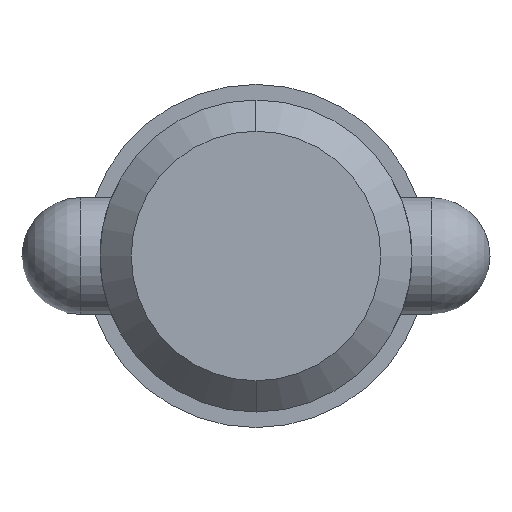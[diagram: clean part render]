
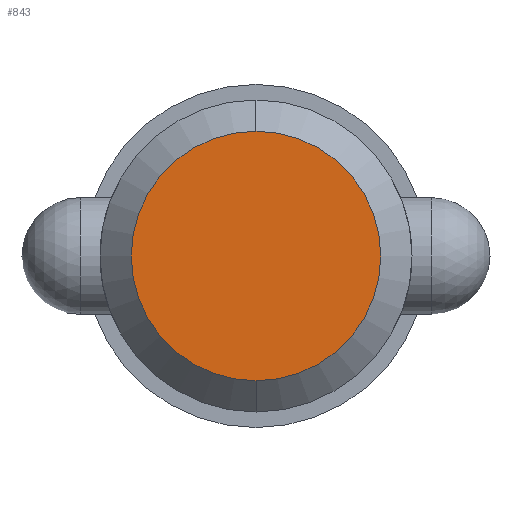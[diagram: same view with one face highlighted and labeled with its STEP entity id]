
A CAD part, left-side view. The second image highlights one B-rep face of the part: STEP entity #843.
In plain terms, the highlighted planar face has unit normal (-1, 0, 0).
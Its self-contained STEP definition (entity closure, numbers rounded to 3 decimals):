
#120 = PLANE ( 'NONE',  #784 ) ;
#121 = CARTESIAN_POINT ( 'NONE',  ( 0., 0., 10.16 ) ) ;
#186 = DIRECTION ( 'NONE',  ( 1., 0., 0. ) ) ;
#211 = EDGE_CURVE ( 'NONE', #480, #369, #909, .T. ) ;
#310 = AXIS2_PLACEMENT_3D ( 'NONE', #608, #186, #528 ) ;
#313 = CARTESIAN_POINT ( 'NONE',  ( 0., 0., -10.16 ) ) ;
#316 = CARTESIAN_POINT ( 'NONE',  ( 0., 0., 0. ) ) ;
#328 = DIRECTION ( 'NONE',  ( 1., 0., 0. ) ) ;
#350 = DIRECTION ( 'NONE',  ( -1., 0., 0. ) ) ;
#369 = VERTEX_POINT ( 'NONE', #121 ) ;
#480 = VERTEX_POINT ( 'NONE', #313 ) ;
#497 = DIRECTION ( 'NONE',  ( 0., 0., -1. ) ) ;
#528 = DIRECTION ( 'NONE',  ( 0., 0., -1. ) ) ;
#577 = CIRCLE ( 'NONE', #1057, 10.16 ) ;
#608 = CARTESIAN_POINT ( 'NONE',  ( 0., 0., 0. ) ) ;
#618 = FACE_OUTER_BOUND ( 'NONE', #858, .T. ) ;
#649 = ORIENTED_EDGE ( 'NONE', *, *, #714, .F. ) ;
#690 = DIRECTION ( 'NONE',  ( 0., 0., 1. ) ) ;
#714 = EDGE_CURVE ( 'NONE', #369, #480, #577, .T. ) ;
#784 = AXIS2_PLACEMENT_3D ( 'NONE', #848, #350, #690 ) ;
#843 = ADVANCED_FACE ( 'NONE', ( #618 ), #120, .T. ) ;
#848 = CARTESIAN_POINT ( 'NONE',  ( 0., 0., 0. ) ) ;
#858 = EDGE_LOOP ( 'NONE', ( #871, #649 ) ) ;
#871 = ORIENTED_EDGE ( 'NONE', *, *, #211, .F. ) ;
#909 = CIRCLE ( 'NONE', #310, 10.16 ) ;
#1057 = AXIS2_PLACEMENT_3D ( 'NONE', #316, #328, #497 ) ;
